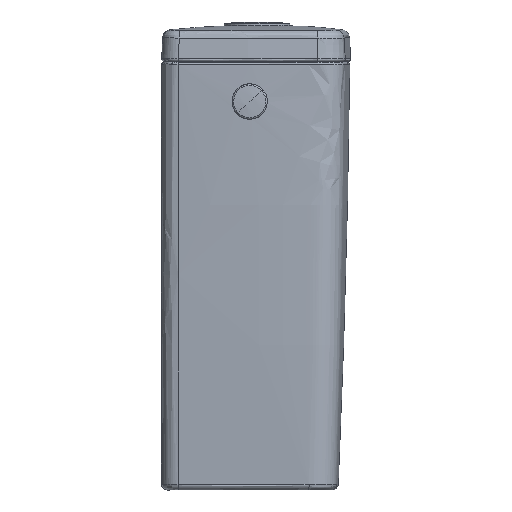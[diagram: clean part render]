
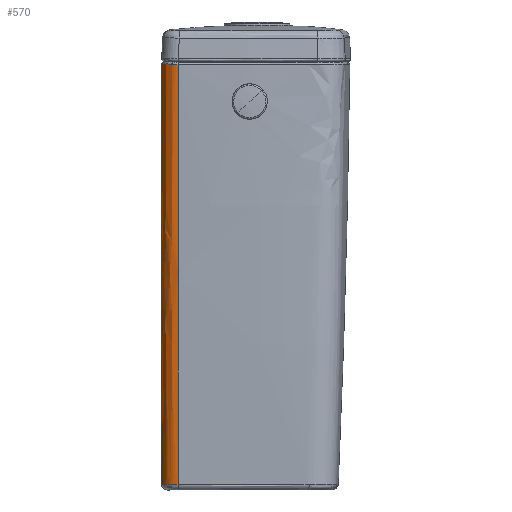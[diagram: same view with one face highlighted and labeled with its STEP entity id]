
A CAD part, left-side view. The second image highlights one B-rep face of the part: STEP entity #570.
In plain terms, the highlighted free-form (B-spline) face has degree [3, 3] with [4, 10] control points.
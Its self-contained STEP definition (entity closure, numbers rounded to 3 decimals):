
#104=B_SPLINE_SURFACE_WITH_KNOTS('',3,3,((#7292,#7293,#7294,#7295,#7296,
#7297,#7298,#7299,#7300,#7301),(#7302,#7303,#7304,#7305,#7306,#7307,#7308,
#7309,#7310,#7311),(#7312,#7313,#7314,#7315,#7316,#7317,#7318,#7319,#7320,
#7321),(#7322,#7323,#7324,#7325,#7326,#7327,#7328,#7329,#7330,#7331)),
 .UNSPECIFIED.,.F.,.F.,.F.,(4,4),(4,2,2,2,4),(0.,1.),(0.,0.25,0.5,0.75,
1.),.UNSPECIFIED.);
#258=B_SPLINE_CURVE_WITH_KNOTS('',3,(#7244,#7245,#7246,#7247,#7248,#7249),
 .UNSPECIFIED.,.F.,.F.,(4,2,4),(0.,0.5,1.),.UNSPECIFIED.);
#259=B_SPLINE_CURVE_WITH_KNOTS('',3,(#7252,#7253,#7254,#7255),
 .UNSPECIFIED.,.F.,.F.,(4,4),(0.,1.),.UNSPECIFIED.);
#260=B_SPLINE_CURVE_WITH_KNOTS('',3,(#7256,#7257,#7258,#7259,#7260,#7261,
#7262,#7263,#7264,#7265,#7266,#7267,#7268,#7269,#7270,#7271,#7272,#7273),
 .UNSPECIFIED.,.F.,.F.,(4,2,2,2,2,2,2,2,4),(0.,0.25,0.375,
0.437,0.469,0.484,0.5,
0.75,1.),.UNSPECIFIED.);
#261=B_SPLINE_CURVE_WITH_KNOTS('',3,(#7275,#7276,#7277,#7278,#7279,#7280,
#7281,#7282,#7283,#7284,#7285,#7286),.UNSPECIFIED.,.F.,.F.,(4,2,2,2,2,4),
(0.,0.25,0.375,0.437,0.5,1.),
 .UNSPECIFIED.);
#262=B_SPLINE_CURVE_WITH_KNOTS('',3,(#7288,#7289,#7290,#7291),
 .UNSPECIFIED.,.F.,.F.,(4,4),(0.,1.),.UNSPECIFIED.);
#570=ADVANCED_FACE('',(#729),#104,.T.);
#729=FACE_OUTER_BOUND('',#872,.T.);
#872=EDGE_LOOP('',(#1332,#1333,#1334,#1335,#1336,#1337));
#1332=ORIENTED_EDGE('',*,*,#2058,.T.);
#1333=ORIENTED_EDGE('',*,*,#2059,.T.);
#1334=ORIENTED_EDGE('',*,*,#1998,.F.);
#1335=ORIENTED_EDGE('',*,*,#2060,.T.);
#1336=ORIENTED_EDGE('',*,*,#2061,.F.);
#1337=ORIENTED_EDGE('',*,*,#2062,.T.);
#1714=VERTEX_POINT('',#6567);
#1735=VERTEX_POINT('',#6660);
#1780=VERTEX_POINT('',#7250);
#1781=VERTEX_POINT('',#7251);
#1782=VERTEX_POINT('',#7274);
#1783=VERTEX_POINT('',#7287);
#1998=EDGE_CURVE('',#1735,#1714,#2232,.T.);
#2058=EDGE_CURVE('',#1780,#1781,#258,.T.);
#2059=EDGE_CURVE('',#1781,#1714,#259,.T.);
#2060=EDGE_CURVE('',#1735,#1782,#260,.T.);
#2061=EDGE_CURVE('',#1783,#1782,#261,.T.);
#2062=EDGE_CURVE('',#1783,#1780,#262,.T.);
#2232=CIRCLE('',#2378,8188.251);
#2378=AXIS2_PLACEMENT_3D('',#6661,#2697,#2698);
#2697=DIRECTION('',(0.,1.,0.));
#2698=DIRECTION('',(-0.998,0.,-0.058));
#6567=CARTESIAN_POINT('',(-177.94,120.,806.447));
#6660=CARTESIAN_POINT('',(-164.973,120.,450.));
#6661=CARTESIAN_POINT('',(8009.441,119.966,925.824));
#7244=CARTESIAN_POINT('',(-191.592,111.224,806.674));
#7245=CARTESIAN_POINT('',(-190.801,112.965,806.863));
#7246=CARTESIAN_POINT('',(-189.638,114.602,806.964));
#7247=CARTESIAN_POINT('',(-186.783,117.279,806.987));
#7248=CARTESIAN_POINT('',(-185.1,118.315,806.909));
#7249=CARTESIAN_POINT('',(-183.367,118.986,806.739));
#7250=CARTESIAN_POINT('',(-191.592,111.224,806.674));
#7251=CARTESIAN_POINT('',(-183.367,118.986,806.739));
#7252=CARTESIAN_POINT('',(-183.367,118.986,806.739));
#7253=CARTESIAN_POINT('',(-181.612,119.665,806.54));
#7254=CARTESIAN_POINT('',(-179.738,120.,806.443));
#7255=CARTESIAN_POINT('',(-177.94,120.,806.447));
#7256=CARTESIAN_POINT('',(-164.973,120.,450.));
#7257=CARTESIAN_POINT('',(-166.701,120.,449.966));
#7258=CARTESIAN_POINT('',(-168.557,119.693,449.924));
#7259=CARTESIAN_POINT('',(-171.257,118.656,449.868));
#7260=CARTESIAN_POINT('',(-172.141,118.216,449.85));
#7261=CARTESIAN_POINT('',(-173.401,117.421,449.827));
#7262=CARTESIAN_POINT('',(-173.81,117.134,449.821));
#7263=CARTESIAN_POINT('',(-174.402,116.673,449.812));
#7264=CARTESIAN_POINT('',(-174.595,116.514,449.809));
#7265=CARTESIAN_POINT('',(-174.88,116.269,449.805));
#7266=CARTESIAN_POINT('',(-174.974,116.186,449.804));
#7267=CARTESIAN_POINT('',(-175.159,116.017,449.802));
#7268=CARTESIAN_POINT('',(-175.276,115.908,449.8));
#7269=CARTESIAN_POINT('',(-176.401,114.834,449.788));
#7270=CARTESIAN_POINT('',(-177.52,113.46,449.762));
#7271=CARTESIAN_POINT('',(-179.268,109.969,449.721));
#7272=CARTESIAN_POINT('',(-179.872,107.85,449.706));
#7273=CARTESIAN_POINT('',(-179.968,105.65,449.71));
#7274=CARTESIAN_POINT('',(-179.968,105.65,449.711));
#7275=CARTESIAN_POINT('',(-192.912,105.924,806.366));
#7276=CARTESIAN_POINT('',(-192.484,105.911,776.949));
#7277=CARTESIAN_POINT('',(-191.896,105.895,747.373));
#7278=CARTESIAN_POINT('',(-190.765,105.868,702.773));
#7279=CARTESIAN_POINT('',(-190.347,105.858,687.867));
#7280=CARTESIAN_POINT('',(-189.656,105.842,665.449));
#7281=CARTESIAN_POINT('',(-189.416,105.837,657.966));
#7282=CARTESIAN_POINT('',(-188.913,105.826,642.982));
#7283=CARTESIAN_POINT('',(-188.65,105.82,635.447));
#7284=CARTESIAN_POINT('',(-186.207,105.768,568.132));
#7285=CARTESIAN_POINT('',(-183.395,105.713,508.709));
#7286=CARTESIAN_POINT('',(-179.968,105.65,449.711));
#7287=CARTESIAN_POINT('',(-192.912,105.924,806.366));
#7288=CARTESIAN_POINT('',(-192.912,105.924,806.366));
#7289=CARTESIAN_POINT('',(-192.801,107.71,806.366));
#7290=CARTESIAN_POINT('',(-192.357,109.54,806.469));
#7291=CARTESIAN_POINT('',(-191.592,111.224,806.674));
#7292=CARTESIAN_POINT('',(-177.857,120.,809.284));
#7293=CARTESIAN_POINT('',(-179.58,120.,809.259));
#7294=CARTESIAN_POINT('',(-181.42,119.725,809.233));
#7295=CARTESIAN_POINT('',(-185.01,118.389,809.182));
#7296=CARTESIAN_POINT('',(-186.743,117.336,809.157));
#7297=CARTESIAN_POINT('',(-189.66,114.619,809.116));
#7298=CARTESIAN_POINT('',(-190.835,112.963,809.099));
#7299=CARTESIAN_POINT('',(-192.425,109.471,809.076));
#7300=CARTESIAN_POINT('',(-192.844,107.645,809.07));
#7301=CARTESIAN_POINT('',(-192.951,105.925,809.069));
#7302=CARTESIAN_POINT('',(-176.141,120.,688.734));
#7303=CARTESIAN_POINT('',(-177.867,120.,688.684));
#7304=CARTESIAN_POINT('',(-179.711,119.724,688.631));
#7305=CARTESIAN_POINT('',(-183.307,118.381,688.527));
#7306=CARTESIAN_POINT('',(-185.044,117.324,688.476));
#7307=CARTESIAN_POINT('',(-187.963,114.595,688.392));
#7308=CARTESIAN_POINT('',(-189.137,112.931,688.358));
#7309=CARTESIAN_POINT('',(-190.721,109.426,688.312));
#7310=CARTESIAN_POINT('',(-191.135,107.594,688.3));
#7311=CARTESIAN_POINT('',(-191.235,105.871,688.297));
#7312=CARTESIAN_POINT('',(-171.762,120.,568.222));
#7313=CARTESIAN_POINT('',(-173.492,120.,568.147));
#7314=CARTESIAN_POINT('',(-175.343,119.722,568.066));
#7315=CARTESIAN_POINT('',(-178.95,118.369,567.909));
#7316=CARTESIAN_POINT('',(-180.692,117.303,567.833));
#7317=CARTESIAN_POINT('',(-183.615,114.552,567.705));
#7318=CARTESIAN_POINT('',(-184.787,112.876,567.654));
#7319=CARTESIAN_POINT('',(-186.359,109.348,567.585));
#7320=CARTESIAN_POINT('',(-186.764,107.506,567.567));
#7321=CARTESIAN_POINT('',(-186.854,105.777,567.563));
#7322=CARTESIAN_POINT('',(-164.724,120.,447.867));
#7323=CARTESIAN_POINT('',(-166.461,120.,447.765));
#7324=CARTESIAN_POINT('',(-168.319,119.72,447.656));
#7325=CARTESIAN_POINT('',(-171.942,118.352,447.444));
#7326=CARTESIAN_POINT('',(-173.69,117.273,447.342));
#7327=CARTESIAN_POINT('',(-176.617,114.493,447.171));
#7328=CARTESIAN_POINT('',(-177.786,112.799,447.103));
#7329=CARTESIAN_POINT('',(-179.342,109.24,447.012));
#7330=CARTESIAN_POINT('',(-179.734,107.385,446.989));
#7331=CARTESIAN_POINT('',(-179.809,105.647,446.984));
